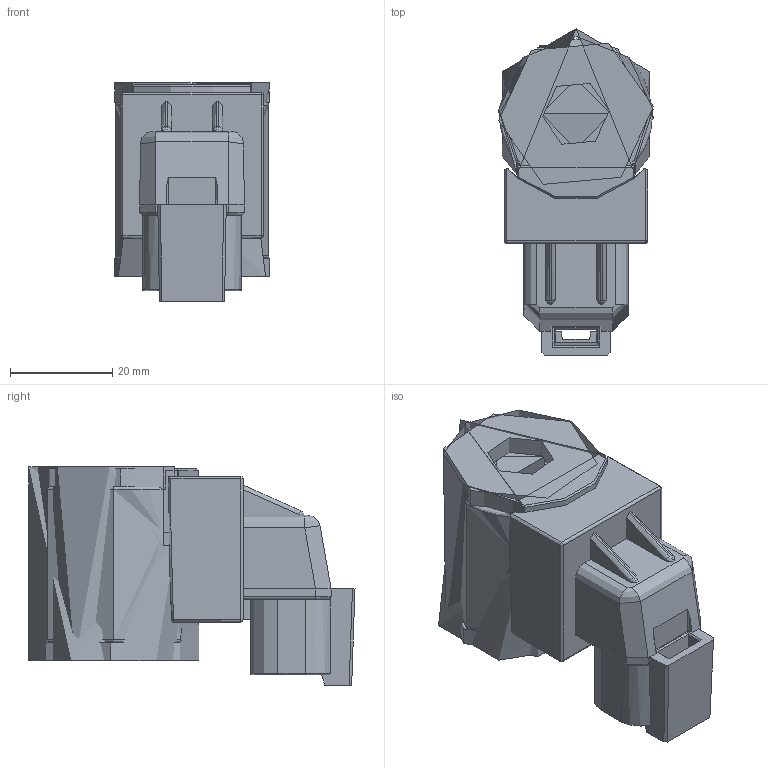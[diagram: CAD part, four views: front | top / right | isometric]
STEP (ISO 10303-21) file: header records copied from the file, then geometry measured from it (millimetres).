
FILE_DESCRIPTION (( 'STEP AP214' ), '1' );
FILE_NAME ('WGE34_13x38.STEP', '2026-07-14T11:29:05', ( '' ), ( '' ), 'SwSTEP 2.0', 'SolidWorks 2024', '' );
FILE_SCHEMA (( 'AUTOMOTIVE_DESIGN' ));
Length unit declared in the file: millimetre
Products named in the file (1): WGE34_13x38
Bounding box: 30.38 x 63.74 x 42.65 mm (x, y, z)
Volume: 42299.2 mm3; surface area: 22136.2 mm2
Topology: 4 solids, 4 shells, 255 faces, 674 edges, 417 vertices
Faces by surface type: cylinder 110, plane 97, bspline 18, torus 17, sphere 8, cone 5
Entity records: 10483 total; most frequent: CARTESIAN_POINT 4580, ORIENTED_EDGE 1324, DIRECTION 1081, EDGE_CURVE 662, VERTEX_POINT 417, AXIS2_PLACEMENT_3D 382, VECTOR 317, LINE 317
